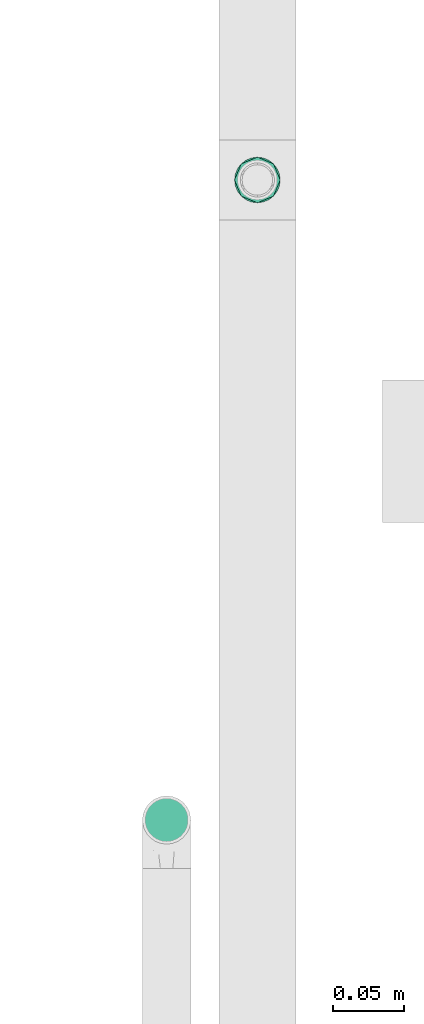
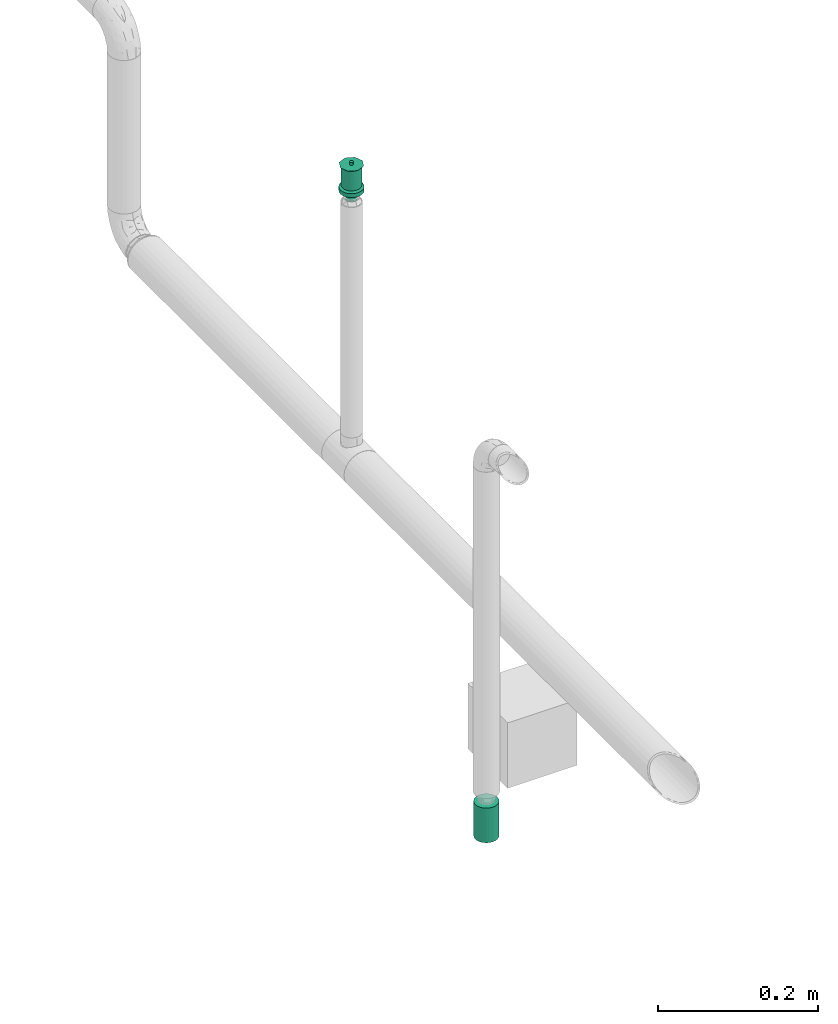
# One storey, part 58 of 95: 2 flow terminals.
"""IFC2X3 building model written with IfcOpenShell, lengths in millimetres."""

from ifc_helpers import new_model, entity, si_unit, converted_unit, derived_unit, direction, frame, origin_with_axes, place, context, subcontext, project, spatial, open_shell, surface_model, source, transform, mapped, type_object, element, save


model = new_model("IFC2X3")

# Units and contexts
model_context = context("Model", 3, precision=0.01, world=frame((0.0, 4.29681676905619e-09, 0.0)), true_north=direction((4.01073788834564e-13, 1.0)))
plan_context = context("Plan", 3, precision=0.01, world=frame((0.0, 4.29681676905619e-09, 0.0)), true_north=direction((4.01073788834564e-13, 1.0)))
body_context = subcontext(model_context, "Body", "Model", "MODEL_VIEW")
ifc_project = project(units=[converted_unit("PLANEANGLEUNIT", "DEGREE", entity("IfcPositiveLengthMeasure", 0.0174532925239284), si_unit("PLANEANGLEUNIT", "RADIAN"), dimensions=[0, 0, 0, 0, 0, 0, 0]), si_unit("AREAUNIT", "SQUARE_METRE"), si_unit("LENGTHUNIT", "METRE", prefix="MILLI"), si_unit("MASSUNIT", "GRAM", prefix="KILO"), si_unit("POWERUNIT", "WATT"), si_unit("PRESSUREUNIT", "PASCAL"), si_unit("FORCEUNIT", "NEWTON", prefix="KILO"), si_unit("ELECTRICVOLTAGEUNIT", "VOLT"), si_unit("ELECTRICCURRENTUNIT", "AMPERE"), si_unit("THERMODYNAMICTEMPERATUREUNIT", "DEGREE_CELSIUS"), si_unit("TIMEUNIT", "SECOND"), si_unit("VOLUMEUNIT", "CUBIC_METRE"), derived_unit("LINEARVELOCITYUNIT", [(si_unit("LENGTHUNIT", "METRE"), 1), (si_unit("TIMEUNIT", "SECOND"), -1)]), derived_unit("VOLUMETRICFLOWRATEUNIT", [(si_unit("VOLUMEUNIT", "CUBIC_METRE"), 1), (si_unit("TIMEUNIT", "SECOND"), -1)]), derived_unit("THERMALTRANSMITTANCEUNIT", [(si_unit("POWERUNIT", "WATT"), 1), (si_unit("THERMODYNAMICTEMPERATUREUNIT", "KELVIN"), -1), (si_unit("AREAUNIT", "SQUARE_METRE"), -1)]), derived_unit("SOUNDPRESSUREUNIT", [(si_unit("PRESSUREUNIT", "PASCAL"), 1)])], contexts=[model_context, plan_context])

# Site, building, storey
site_placement = place(None, frame((0.0, -4.29681676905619e-09, 0.0), z_axis=(0.0, 0.0, 1.0), x_axis=(1.0, 0.0, 0.0)))
site = spatial("IfcSite", under=ifc_project, at=site_placement, CompositionType="ELEMENT")
building_placement = place(site_placement, frame((0.0, 4.29681676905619e-09, 0.0), z_axis=(0.0, 0.0, 1.0), x_axis=(1.0, 0.0, 0.0)))
building = spatial("IfcBuilding", under=site, at=building_placement, Name="mc-building", CompositionType="ELEMENT")
storey_placement = place(building_placement, frame((0.0, 0.0, 210900.0), z_axis=(0.0, 0.0, 1.0), x_axis=(1.0, 0.0, 0.0)))
storey = spatial("IfcBuildingStorey", under=building, at=storey_placement, Name="Nivå F", CompositionType="ELEMENT", Elevation=210900.0)

# Flow terminals
fire_suppression_terminal_type_1 = type_object("IfcFireSuppressionTerminalType", Name="68DGR-STD-STÅENDE", PredefinedType="NOTDEFINED")
shared_shape_1 = source(origin_with_axes(), body_context, "Body", "SurfaceModel", [
    surface_model("IfcShellBasedSurfaceModel", [(3.36465, -12.55704, 51.0), (6.5, -11.25833, 51.0), (9.19239, -9.19239, 51.0), (12.55704, -3.36465, 51.0), (-11.25833, -6.5, 51.0), (11.25833, -6.5, 51.0), (-13.0, 0.0, 51.0), (0.0, -13.0, 51.0), (-6.5, -11.25833, 51.0), (-3.36465, -12.55704, 51.0), (-9.19239, -9.19239, 51.0), (-12.55704, -3.36465, 51.0), (13.0, 0.0, 51.0), (12.55704, 3.36465, 51.0), (11.25833, 6.5, 51.0), (9.19239, 9.19239, 51.0), (6.5, 11.25833, 51.0), (3.36465, 12.55704, 51.0), (0.0, 13.0, 51.0), (-3.36465, 12.55704, 51.0), (-12.55704, 3.36465, 51.0), (-9.19239, 9.19239, 51.0), (-11.25833, 6.5, 51.0), (-6.5, 11.25833, 51.0), (0.0, 13.0, 21.14766), (3.36465, 12.55704, 21.14766), (6.5, 11.25833, 21.14766), (-3.36465, 12.55704, 21.14766), (9.19239, 9.19239, 21.14766), (11.25833, 6.5, 21.14766), (12.55704, 3.36465, 21.14766), (-12.55704, 3.36465, 21.14766), (-11.25833, -6.5, 21.14766), (-9.19239, 9.19239, 21.14766), (-6.5, 11.25833, 21.14766), (-11.25833, 6.5, 21.14766), (-13.0, 0.0, 21.14766), (12.55704, -3.36465, 21.14766), (9.19239, -9.19239, 21.14766), (11.25833, -6.5, 21.14766), (6.5, -11.25833, 21.14766), (3.36465, -12.55704, 21.14766), (-6.5, -11.25833, 21.14766), (-9.19239, -9.19239, 21.14766), (-12.55704, -3.36465, 21.14766), (0.0, -13.0, 21.14766), (-3.36465, -12.55704, 21.14766), (13.0, 0.0, 21.14766), (7.24444, -1.94114, 0.1), (1.94114, -7.24444, 0.1), (3.75, -6.49519, 0.1), (5.3033, -5.3033, 0.1), (-5.3033, -5.3033, 0.1), (6.49519, -3.75, 0.1), (5.3033, 5.3033, 0.1), (0.0, -7.5, 0.1), (-3.75, -6.49519, 0.1), (-1.94114, -7.24444, 0.1), (-7.24444, -1.94114, 0.1), (-6.49519, -3.75, 0.1), (-7.24444, 1.94114, 0.1), (7.5, 0.0, 0.1), (6.49519, 3.75, 0.1), (-6.49519, 3.75, 0.1), (1.94114, 7.24444, 0.1), (0.0, 7.5, 0.1), (3.75, 6.49519, 0.1), (-7.5, 0.0, 0.1), (-5.3033, 5.3033, 0.1), (-1.94114, 7.24444, 0.1), (-3.75, 6.49519, 0.1), (7.24444, 1.94114, 0.1), (1.94114, 7.24444, -0.1), (-6.49519, 3.75, -0.1), (0.0, 7.5, -0.1), (5.3033, 5.3033, -0.1), (3.75, 6.49519, -0.1), (6.49519, 3.75, -0.1), (7.24444, 1.94114, -0.1), (-1.94114, 7.24444, -0.1), (-5.3033, 5.3033, -0.1), (-3.75, 6.49519, -0.1), (-7.24444, 1.94114, -0.1), (-7.24444, -1.94114, -0.1), (-7.5, 0.0, -0.1), (7.5, 0.0, -0.1), (7.24444, -1.94114, -0.1), (-5.3033, -5.3033, -0.1), (1.94114, -7.24444, -0.1), (6.49519, -3.75, -0.1), (5.3033, -5.3033, -0.1), (3.75, -6.49519, -0.1), (-6.49519, -3.75, -0.1), (-3.75, -6.49519, -0.1), (0.0, -7.5, -0.1), (-1.94114, -7.24444, -0.1), (0.0, -2.5, 51.0), (-2.5, 0.0, 51.0), (0.0, 2.5, 51.0), (2.5, 0.0, 51.0), (0.0, -16.0, 53.0), (11.31371, -11.31371, 53.0), (-11.31371, -11.31371, 53.0), (-16.0, 0.0, 53.0), (16.0, 0.0, 53.0), (11.31371, 11.31371, 53.0), (0.0, 16.0, 53.0), (-11.31371, 11.31371, 53.0), (1.25, -2.16506, 57.0), (0.0, -2.5, 57.0), (0.64705, -2.41481, 57.0), (2.41481, -0.64705, 57.0), (1.76777, -1.76777, 57.0), (-2.41481, -0.64705, 57.0), (-2.5, 0.0, 57.0), (2.16506, -1.25, 57.0), (-1.25, -2.16506, 57.0), (-0.64705, -2.41481, 57.0), (-1.76777, -1.76777, 57.0), (-2.16506, -1.25, 57.0), (2.5, 0.0, 57.0), (2.41481, 0.64705, 57.0), (2.16506, 1.25, 57.0), (1.76777, 1.76777, 57.0), (0.64705, 2.41481, 57.0), (1.25, 2.16506, 57.0), (-1.76777, 1.76777, 57.0), (0.0, 2.5, 57.0), (-2.16506, 1.25, 57.0), (-2.41481, 0.64705, 57.0), (-0.64705, 2.41481, 57.0), (-1.25, 2.16506, 57.0), (1.25, 2.16506, 51.0), (1.76777, 1.76777, 51.0), (1.15, 1.99186, 51.0), (0.59528, 2.22163, 51.0), (0.64705, 2.41481, 51.0), (0.0, 2.3, 51.0), (1.62635, 1.62635, 51.0), (2.41481, 0.64705, 51.0), (2.3, 0.0, 51.0), (2.22163, 0.59528, 51.0), (2.16506, 1.25, 51.0), (1.99186, 1.15, 51.0), (-0.59528, 2.22163, 51.0), (-0.64705, 2.41481, 51.0), (-1.15, 1.99186, 51.0), (-1.76777, 1.76777, 51.0), (-1.25, 2.16506, 51.0), (-1.62635, 1.62635, 51.0), (-1.99186, 1.15, 51.0), (-2.16506, 1.25, 51.0), (-2.22163, 0.59528, 51.0), (-2.41481, 0.64705, 51.0), (-2.3, 0.0, 51.0), (2.41481, -0.64705, 51.0), (2.22163, -0.59528, 51.0), (1.99186, -1.15, 51.0), (2.16506, -1.25, 51.0), (1.62635, -1.62635, 51.0), (1.76777, -1.76777, 51.0), (1.25, -2.16506, 51.0), (1.15, -1.99186, 51.0), (0.59528, -2.22163, 51.0), (0.64705, -2.41481, 51.0), (0.0, -2.3, 51.0), (-2.16506, -1.25, 51.0), (-1.99186, -1.15, 51.0), (-1.76777, -1.76777, 51.0), (-1.62635, -1.62635, 51.0), (-2.41481, -0.64705, 51.0), (-2.22163, -0.59528, 51.0), (-0.59528, -2.22163, 51.0), (-0.64705, -2.41481, 51.0), (-1.15, -1.99186, 51.0), (-1.25, -2.16506, 51.0), (1.62635, -1.62635, 56.8), (1.15, -1.99186, 56.8), (0.59528, -2.22163, 56.8), (0.0, -2.3, 56.8), (2.22163, 0.59528, 56.8), (1.99186, -1.15, 56.8), (2.22163, -0.59528, 56.8), (-0.59528, -2.22163, 56.8), (-1.15, -1.99186, 56.8), (-1.62635, -1.62635, 56.8), (-1.99186, -1.15, 56.8), (-2.22163, -0.59528, 56.8), (-1.99186, 1.15, 56.8), (2.3, 0.0, 56.8), (1.62635, 1.62635, 56.8), (1.99186, 1.15, 56.8), (1.15, 1.99186, 56.8), (0.0, 2.3, 56.8), (0.59528, 2.22163, 56.8), (-2.22163, 0.59528, 56.8), (-2.3, 0.0, 56.8), (-1.15, 1.99186, 56.8), (-0.59528, 2.22163, 56.8), (-1.62635, 1.62635, 56.8), (4.1411, -15.45481, 19.0), (8.0, -13.85641, 19.0), (11.31371, -11.31371, 19.0), (-8.0, -13.85641, 19.0), (15.45481, -4.1411, 19.0), (16.0, 0.0, 19.0), (13.85641, -8.0, 19.0), (0.0, -16.0, 19.0), (-4.1411, -15.45481, 19.0), (-13.85641, -8.0, 19.0), (-11.31371, -11.31371, 19.0), (-15.45481, -4.1411, 19.0), (15.45481, 4.1411, 19.0), (13.85641, 8.0, 19.0), (11.31371, 11.31371, 19.0), (-4.1411, 15.45481, 19.0), (8.0, 13.85641, 19.0), (4.1411, 15.45481, 19.0), (0.0, 16.0, 19.0), (-13.85641, 8.0, 19.0), (-15.45481, 4.1411, 19.0), (-16.0, 0.0, 19.0), (-11.31371, 11.31371, 19.0), (-8.0, 13.85641, 19.0), (0.0, 16.0, 13.0), (4.1411, 15.45481, 13.0), (8.0, 13.85641, 13.0), (-4.1411, 15.45481, 13.0), (11.31371, 11.31371, 13.0), (13.85641, 8.0, 13.0), (15.45481, 4.1411, 13.0), (-15.45481, -4.1411, 13.0), (-11.31371, 11.31371, 13.0), (-8.0, 13.85641, 13.0), (-13.85641, 8.0, 13.0), (-15.45481, 4.1411, 13.0), (-16.0, 0.0, 13.0), (4.1411, -15.45481, 13.0), (16.0, 0.0, 13.0), (15.45481, -4.1411, 13.0), (13.85641, -8.0, 13.0), (11.31371, -11.31371, 13.0), (8.0, -13.85641, 13.0), (-8.0, -13.85641, 13.0), (-13.85641, -8.0, 13.0), (-11.31371, -11.31371, 13.0), (0.0, -16.0, 13.0), (-4.1411, -15.45481, 13.0), (7.24444, -1.94114, 13.0), (1.94114, -7.24444, 13.0), (3.75, -6.49519, 13.0), (5.3033, -5.3033, 13.0), (-5.3033, -5.3033, 13.0), (6.49519, -3.75, 13.0), (5.3033, 5.3033, 13.0), (0.0, -7.5, 13.0), (-3.75, -6.49519, 13.0), (-1.94114, -7.24444, 13.0), (-7.24444, -1.94114, 13.0), (-6.49519, -3.75, 13.0), (-7.24444, 1.94114, 13.0), (7.5, 0.0, 13.0), (6.49519, 3.75, 13.0), (-6.49519, 3.75, 13.0), (1.94114, 7.24444, 13.0), (0.0, 7.5, 13.0), (3.75, 6.49519, 13.0), (-7.5, 0.0, 13.0), (-5.3033, 5.3033, 13.0), (-1.94114, 7.24444, 13.0), (-3.75, 6.49519, 13.0), (7.24444, 1.94114, 13.0), (3.75, 6.49519, 0.0), (5.3033, 5.3033, 0.0), (3.65, 6.32199, 0.0), (1.88938, 7.05126, 0.0), (0.0, 7.3, 0.0), (1.94114, 7.24444, 0.0), (0.0, 7.5, 0.0), (5.16188, 5.16188, 0.0), (7.24444, 1.94114, 0.0), (7.3, 0.0, 0.0), (7.05126, 1.88938, 0.0), (7.5, 0.0, 0.0), (6.49519, 3.75, 0.0), (6.32199, 3.65, 0.0), (-1.88938, 7.05126, 0.0), (-1.94114, 7.24444, 0.0), (-3.65, 6.32199, 0.0), (-5.3033, 5.3033, 0.0), (-3.75, 6.49519, 0.0), (-5.16188, 5.16188, 0.0), (-6.32199, 3.65, 0.0), (-6.49519, 3.75, 0.0), (-7.05126, 1.88938, 0.0), (-7.24444, 1.94114, 0.0), (-7.3, 0.0, 0.0), (-7.5, 0.0, 0.0), (7.24444, -1.94114, 0.0), (7.05126, -1.88938, 0.0), (6.32199, -3.65, 0.0), (6.49519, -3.75, 0.0), (5.16188, -5.16188, 0.0), (5.3033, -5.3033, 0.0), (3.75, -6.49519, 0.0), (3.65, -6.32199, 0.0), (1.88938, -7.05126, 0.0), (1.94114, -7.24444, 0.0), (0.0, -7.3, 0.0), (0.0, -7.5, 0.0), (-6.49519, -3.75, 0.0), (-6.32199, -3.65, 0.0), (-5.3033, -5.3033, 0.0), (-5.16188, -5.16188, 0.0), (-7.24444, -1.94114, 0.0), (-7.05126, -1.88938, 0.0), (-1.88938, -7.05126, 0.0), (-1.94114, -7.24444, 0.0), (-3.65, -6.32199, 0.0), (-3.75, -6.49519, 0.0), (1.88938, -7.05126, 12.8), (0.0, -7.3, 12.8), (3.65, -6.32199, 12.8), (5.16188, -5.16188, 12.8), (6.32199, -3.65, 12.8), (7.05126, 1.88938, 12.8), (7.05126, -1.88938, 12.8), (-5.16188, -5.16188, 12.8), (-1.88938, -7.05126, 12.8), (-3.65, -6.32199, 12.8), (-6.32199, -3.65, 12.8), (-7.05126, -1.88938, 12.8), (0.0, 7.3, 12.8), (7.3, 0.0, 12.8), (6.32199, 3.65, 12.8), (5.16188, 5.16188, 12.8), (3.65, 6.32199, 12.8), (1.88938, 7.05126, 12.8), (-6.32199, 3.65, 12.8), (-7.05126, 1.88938, 12.8), (-7.3, 0.0, 12.8), (-3.65, 6.32199, 12.8), (-1.88938, 7.05126, 12.8), (-5.16188, 5.16188, 12.8)], [open_shell([[[0, 1, 2]], [[0, 2, 3]], [[0, 3, 4]], [[3, 2, 5]], [[6, 4, 3]], [[7, 8, 9]], [[7, 0, 8]], [[8, 4, 10]], [[0, 4, 8]], [[4, 6, 11]], [[6, 3, 12]], [[13, 14, 15]], [[6, 13, 15]], [[16, 17, 18]], [[15, 16, 19]], [[18, 19, 16]], [[20, 21, 22]], [[20, 6, 15]], [[21, 19, 23]], [[19, 21, 20]], [[15, 19, 20]], [[13, 6, 12]], [[24, 25, 26]], [[27, 24, 26]], [[28, 29, 30]], [[26, 28, 31]], [[28, 32, 31]], [[27, 33, 34]], [[33, 27, 31]], [[33, 31, 35]], [[27, 26, 31]], [[31, 32, 36]], [[32, 28, 30]], [[32, 30, 37]], [[38, 37, 39]], [[38, 40, 41]], [[38, 41, 37]], [[32, 37, 41]], [[32, 42, 43]], [[44, 36, 32]], [[42, 45, 46]], [[42, 32, 41]], [[45, 42, 41]], [[30, 47, 37]], [[4, 32, 43]], [[8, 42, 46]], [[43, 42, 10]], [[9, 46, 45]], [[36, 11, 6]], [[11, 36, 44]], [[11, 44, 4]], [[44, 32, 4]], [[43, 10, 4]], [[8, 10, 42]], [[46, 9, 8]], [[45, 7, 9]], [[0, 41, 40]], [[38, 1, 40]], [[5, 39, 37]], [[38, 39, 2]], [[3, 37, 47]], [[41, 0, 7]], [[40, 1, 0]], [[38, 2, 1]], [[39, 5, 2]], [[3, 5, 37]], [[47, 12, 3]], [[41, 7, 45]], [[30, 13, 47]], [[29, 14, 30]], [[25, 24, 17]], [[15, 29, 28]], [[30, 14, 13]], [[13, 12, 47]], [[16, 26, 17]], [[16, 15, 28]], [[26, 25, 17]], [[15, 14, 29]], [[28, 26, 16]], [[24, 18, 17]], [[19, 27, 34]], [[33, 23, 34]], [[22, 35, 31]], [[33, 35, 21]], [[20, 31, 36]], [[27, 19, 18]], [[34, 23, 19]], [[33, 21, 23]], [[35, 22, 21]], [[20, 22, 31]], [[36, 6, 20]], [[27, 18, 24]], [[48, 49, 50]], [[48, 50, 51]], [[49, 48, 52]], [[48, 51, 53]], [[54, 52, 48]], [[55, 56, 57]], [[56, 55, 52]], [[52, 58, 59]], [[52, 55, 49]], [[52, 60, 58]], [[54, 48, 61]], [[62, 54, 61]], [[54, 63, 52]], [[64, 65, 54]], [[64, 54, 66]], [[63, 54, 65]], [[63, 60, 52]], [[67, 58, 60]], [[68, 69, 70]], [[69, 68, 63]], [[69, 63, 65]], [[71, 62, 61]], [[72, 73, 74]], [[75, 72, 76]], [[75, 77, 78]], [[72, 75, 73]], [[78, 73, 75]], [[79, 80, 81]], [[80, 79, 73]], [[74, 73, 79]], [[78, 82, 73]], [[82, 83, 84]], [[82, 78, 85]], [[86, 87, 85]], [[88, 86, 89]], [[90, 91, 88]], [[90, 88, 89]], [[87, 86, 88]], [[83, 87, 92]], [[83, 85, 87]], [[93, 94, 95]], [[94, 93, 87]], [[88, 94, 87]], [[85, 83, 82]], [[83, 58, 84]], [[92, 59, 83]], [[56, 87, 93]], [[92, 87, 52]], [[57, 93, 95]], [[83, 59, 58]], [[58, 67, 84]], [[57, 56, 93]], [[52, 87, 56]], [[52, 59, 92]], [[55, 57, 95]], [[95, 94, 55]], [[88, 49, 94]], [[91, 50, 88]], [[53, 90, 89]], [[91, 90, 51]], [[48, 89, 86]], [[91, 51, 50]], [[50, 49, 88]], [[61, 48, 86]], [[53, 89, 48]], [[53, 51, 90]], [[85, 61, 86]], [[94, 49, 55]], [[78, 71, 85]], [[77, 62, 78]], [[66, 75, 76]], [[77, 75, 54]], [[64, 76, 72]], [[78, 62, 71]], [[71, 61, 85]], [[64, 66, 76]], [[54, 75, 66]], [[54, 62, 77]], [[65, 64, 72]], [[72, 74, 65]], [[79, 69, 74]], [[81, 70, 79]], [[63, 80, 73]], [[81, 80, 68]], [[60, 73, 82]], [[81, 68, 70]], [[70, 69, 79]], [[67, 60, 82]], [[63, 73, 60]], [[63, 68, 80]], [[84, 67, 82]], [[74, 69, 65]], [[96, 97, 98]], [[98, 99, 96]], [[100, 101, 102]], [[103, 102, 101]], [[101, 104, 103]], [[104, 105, 106]], [[107, 103, 106]], [[106, 103, 104]], [[99, 98, 105]], [[105, 104, 99]], [[98, 106, 105]], [[98, 107, 106]], [[107, 98, 97]], [[103, 107, 97]], [[97, 96, 102]], [[102, 103, 97]], [[96, 100, 102]], [[96, 101, 100]], [[101, 96, 99]], [[104, 101, 99]], [[108, 109, 110]], [[111, 108, 112]], [[113, 108, 114]], [[111, 112, 115]], [[108, 111, 114]], [[109, 116, 117]], [[116, 109, 118]], [[118, 113, 119]], [[118, 109, 108]], [[108, 113, 118]], [[111, 120, 114]], [[121, 122, 123]], [[114, 121, 123]], [[114, 123, 124]], [[124, 123, 125]], [[126, 124, 127]], [[124, 128, 129]], [[129, 114, 124]], [[126, 130, 131]], [[128, 124, 126]], [[130, 126, 127]], [[121, 114, 120]], [[132, 133, 134]], [[132, 134, 135]], [[136, 135, 137]], [[135, 136, 132]], [[136, 137, 98]], [[134, 133, 138]], [[139, 140, 141]], [[140, 139, 99]], [[139, 141, 142]], [[138, 142, 143]], [[142, 138, 133]], [[143, 142, 141]], [[98, 144, 145]], [[98, 137, 144]], [[145, 144, 146]], [[147, 148, 149]], [[146, 148, 145]], [[149, 148, 146]], [[150, 151, 147]], [[151, 150, 152]], [[150, 147, 149]], [[153, 152, 154]], [[152, 153, 151]], [[153, 154, 97]], [[99, 155, 156]], [[156, 155, 157]], [[157, 158, 159]], [[158, 157, 155]], [[159, 158, 160]], [[160, 161, 162]], [[162, 161, 163]], [[163, 164, 165]], [[164, 163, 161]], [[165, 164, 96]], [[162, 159, 160]], [[166, 167, 168]], [[168, 167, 169]], [[167, 166, 170]], [[97, 171, 170]], [[170, 171, 167]], [[97, 154, 171]], [[172, 96, 173]], [[172, 173, 174]], [[169, 175, 168]], [[175, 169, 174]], [[175, 174, 173]], [[165, 96, 172]], [[156, 140, 99]], [[170, 113, 97]], [[166, 119, 170]], [[116, 168, 175]], [[166, 168, 118]], [[117, 175, 173]], [[170, 119, 113]], [[113, 114, 97]], [[117, 116, 175]], [[118, 168, 116]], [[118, 119, 166]], [[109, 117, 173]], [[173, 96, 109]], [[164, 110, 96]], [[161, 108, 164]], [[115, 160, 158]], [[161, 160, 112]], [[111, 158, 155]], [[161, 112, 108]], [[108, 110, 164]], [[120, 111, 155]], [[115, 158, 111]], [[115, 112, 160]], [[99, 120, 155]], [[96, 110, 109]], [[139, 121, 99]], [[142, 122, 139]], [[125, 133, 132]], [[142, 133, 123]], [[124, 132, 136]], [[139, 122, 121]], [[121, 120, 99]], [[124, 125, 132]], [[123, 133, 125]], [[123, 122, 142]], [[127, 124, 136]], [[136, 98, 127]], [[145, 130, 98]], [[148, 131, 145]], [[128, 147, 151]], [[148, 147, 126]], [[129, 151, 153]], [[148, 126, 131]], [[131, 130, 145]], [[114, 129, 153]], [[128, 151, 129]], [[128, 126, 147]], [[97, 114, 153]], [[98, 130, 127]], [[176, 177, 178]], [[176, 178, 179]], [[180, 176, 179]], [[181, 176, 182]], [[180, 182, 176]], [[183, 184, 179]], [[185, 179, 184]], [[186, 187, 185]], [[185, 187, 188]], [[179, 185, 188]], [[189, 182, 180]], [[190, 191, 180]], [[192, 190, 180]], [[193, 194, 192]], [[180, 193, 192]], [[188, 193, 180]], [[195, 188, 196]], [[196, 188, 187]], [[197, 198, 199]], [[188, 199, 198]], [[188, 198, 193]], [[180, 179, 188]], [[154, 187, 171]], [[171, 186, 167]], [[174, 169, 184]], [[185, 169, 167]], [[172, 174, 183]], [[187, 186, 171]], [[154, 196, 187]], [[174, 184, 183]], [[184, 169, 185]], [[167, 186, 185]], [[172, 183, 179]], [[179, 165, 172]], [[165, 178, 163]], [[163, 177, 162]], [[157, 159, 181]], [[176, 159, 162]], [[156, 157, 182]], [[177, 176, 162]], [[163, 178, 177]], [[156, 182, 189]], [[182, 157, 181]], [[159, 176, 181]], [[156, 189, 140]], [[179, 178, 165]], [[140, 180, 141]], [[141, 191, 143]], [[134, 138, 192]], [[190, 138, 143]], [[135, 134, 194]], [[180, 191, 141]], [[140, 189, 180]], [[134, 192, 194]], [[192, 138, 190]], [[143, 191, 190]], [[135, 194, 193]], [[193, 137, 135]], [[137, 198, 144]], [[144, 197, 146]], [[150, 149, 188]], [[199, 149, 146]], [[152, 150, 195]], [[197, 199, 146]], [[144, 198, 197]], [[152, 195, 196]], [[195, 150, 188]], [[149, 199, 188]], [[152, 196, 154]], [[193, 198, 137]], [[200, 201, 202]], [[203, 200, 202]], [[204, 205, 202]], [[204, 202, 206]], [[203, 202, 205]], [[207, 203, 208]], [[207, 200, 203]], [[203, 209, 210]], [[209, 203, 211]], [[205, 211, 203]], [[205, 212, 211]], [[212, 213, 214]], [[215, 212, 214]], [[216, 217, 218]], [[214, 216, 215]], [[218, 215, 216]], [[211, 219, 220]], [[221, 211, 220]], [[222, 215, 223]], [[215, 222, 219]], [[219, 211, 215]], [[211, 212, 215]], [[224, 225, 226]], [[227, 224, 226]], [[228, 229, 230]], [[227, 226, 228]], [[227, 228, 231]], [[227, 232, 233]], [[232, 227, 234]], [[234, 231, 235]], [[231, 234, 227]], [[235, 231, 236]], [[228, 230, 231]], [[237, 238, 239]], [[237, 239, 240]], [[241, 242, 237]], [[241, 237, 240]], [[238, 237, 243]], [[244, 243, 245]], [[243, 244, 231]], [[243, 246, 247]], [[243, 231, 238]], [[237, 246, 243]], [[238, 231, 230]], [[231, 211, 236]], [[244, 209, 231]], [[203, 245, 243]], [[244, 245, 210]], [[208, 243, 247]], [[231, 209, 211]], [[211, 221, 236]], [[208, 203, 243]], [[210, 245, 203]], [[210, 209, 244]], [[207, 208, 247]], [[247, 246, 207]], [[237, 200, 246]], [[242, 201, 237]], [[206, 241, 240]], [[242, 241, 202]], [[204, 240, 239]], [[242, 202, 201]], [[201, 200, 237]], [[205, 204, 239]], [[206, 240, 204]], [[206, 202, 241]], [[238, 205, 239]], [[246, 200, 207]], [[230, 212, 238]], [[229, 213, 230]], [[216, 228, 226]], [[229, 228, 214]], [[217, 226, 225]], [[230, 213, 212]], [[212, 205, 238]], [[217, 216, 226]], [[214, 228, 216]], [[214, 213, 229]], [[218, 217, 225]], [[225, 224, 218]], [[227, 215, 224]], [[233, 223, 227]], [[219, 232, 234]], [[233, 232, 222]], [[220, 234, 235]], [[233, 222, 223]], [[223, 215, 227]], [[221, 220, 235]], [[219, 234, 220]], [[219, 222, 232]], [[236, 221, 235]], [[224, 215, 218]], [[248, 249, 250]], [[248, 250, 251]], [[249, 248, 252]], [[248, 251, 253]], [[254, 252, 248]], [[255, 256, 257]], [[256, 255, 252]], [[252, 258, 259]], [[252, 255, 249]], [[252, 260, 258]], [[254, 248, 261]], [[262, 254, 261]], [[254, 263, 252]], [[264, 265, 254]], [[264, 254, 266]], [[263, 254, 265]], [[263, 260, 252]], [[267, 258, 260]], [[268, 269, 270]], [[269, 268, 263]], [[269, 263, 265]], [[271, 262, 261]], [[272, 273, 274]], [[272, 274, 275]], [[276, 277, 275]], [[277, 276, 278]], [[275, 277, 272]], [[274, 273, 279]], [[280, 281, 282]], [[281, 280, 283]], [[280, 282, 284]], [[279, 284, 285]], [[284, 279, 273]], [[285, 284, 282]], [[278, 286, 287]], [[287, 286, 288]], [[289, 290, 291]], [[288, 290, 287]], [[288, 291, 290]], [[278, 276, 286]], [[292, 293, 289]], [[293, 292, 294]], [[292, 289, 291]], [[295, 294, 296]], [[294, 295, 293]], [[295, 296, 297]], [[283, 298, 299]], [[299, 298, 300]], [[300, 301, 302]], [[301, 300, 298]], [[302, 301, 303]], [[303, 304, 305]], [[305, 304, 306]], [[306, 307, 308]], [[307, 306, 304]], [[308, 307, 309]], [[305, 302, 303]], [[310, 311, 312]], [[312, 311, 313]], [[311, 310, 314]], [[297, 315, 314]], [[314, 315, 311]], [[297, 296, 315]], [[316, 309, 317]], [[316, 317, 318]], [[313, 319, 312]], [[313, 318, 319]], [[319, 318, 317]], [[308, 309, 316]], [[299, 281, 283]], [[314, 258, 297]], [[310, 259, 314]], [[256, 312, 319]], [[310, 312, 252]], [[257, 319, 317]], [[314, 259, 258]], [[258, 267, 297]], [[257, 256, 319]], [[252, 312, 256]], [[252, 259, 310]], [[255, 257, 317]], [[317, 309, 255]], [[307, 249, 309]], [[304, 250, 307]], [[253, 303, 301]], [[304, 303, 251]], [[248, 301, 298]], [[304, 251, 250]], [[250, 249, 307]], [[261, 248, 298]], [[253, 301, 248]], [[253, 251, 303]], [[283, 261, 298]], [[309, 249, 255]], [[280, 271, 283]], [[284, 262, 280]], [[266, 273, 272]], [[284, 273, 254]], [[264, 272, 277]], [[280, 262, 271]], [[271, 261, 283]], [[264, 266, 272]], [[254, 273, 266]], [[254, 262, 284]], [[265, 264, 277]], [[277, 278, 265]], [[287, 269, 278]], [[290, 270, 287]], [[263, 289, 293]], [[290, 289, 268]], [[260, 293, 295]], [[290, 268, 270]], [[270, 269, 287]], [[267, 260, 295]], [[263, 293, 260]], [[263, 268, 289]], [[297, 267, 295]], [[278, 269, 265]], [[320, 321, 322]], [[323, 322, 324]], [[325, 326, 322]], [[324, 322, 326]], [[322, 327, 325]], [[328, 329, 321]], [[327, 321, 329]], [[330, 331, 327]], [[322, 321, 327]], [[331, 332, 327]], [[326, 325, 333]], [[334, 325, 332]], [[335, 334, 336]], [[332, 337, 336]], [[334, 332, 336]], [[331, 338, 332]], [[339, 338, 340]], [[340, 338, 331]], [[341, 342, 343]], [[332, 338, 343]], [[332, 343, 342]], [[332, 325, 327]], [[296, 331, 315]], [[315, 330, 311]], [[318, 313, 329]], [[327, 313, 311]], [[316, 318, 328]], [[331, 330, 315]], [[296, 340, 331]], [[318, 329, 328]], [[329, 313, 327]], [[311, 330, 327]], [[316, 328, 321]], [[321, 308, 316]], [[308, 320, 306]], [[306, 322, 305]], [[300, 302, 324]], [[323, 302, 305]], [[299, 300, 326]], [[322, 323, 305]], [[306, 320, 322]], [[299, 326, 333]], [[326, 300, 324]], [[302, 323, 324]], [[299, 333, 281]], [[321, 320, 308]], [[281, 325, 282]], [[282, 334, 285]], [[274, 279, 336]], [[335, 279, 285]], [[275, 274, 337]], [[325, 334, 282]], [[281, 333, 325]], [[274, 336, 337]], [[336, 279, 335]], [[285, 334, 335]], [[275, 337, 332]], [[332, 276, 275]], [[276, 342, 286]], [[286, 341, 288]], [[292, 291, 338]], [[343, 291, 288]], [[294, 292, 339]], [[341, 343, 288]], [[286, 342, 341]], [[294, 339, 340]], [[339, 292, 338]], [[291, 343, 338]], [[294, 340, 296]], [[332, 342, 276]]])]),
])
flow_terminal_1_placement = place(storey_placement, frame((535962.24677, 447656.17841, 4386.99611000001), z_axis=(0.0, 0.0, 1.0), x_axis=(1.0, 0.0, 0.0)))
element("IfcFlowTerminal", 1, at=flow_terminal_1_placement, inside=storey, type_object=fire_suppression_terminal_type_1, Name="68DGR-STD-STÅENDE", context=body_context, shape_type="MappedRepresentation", body=[
    mapped(shared_shape_1, transform((0.0, 0.0, 0.0), scale=1.0)),
])
fire_suppression_terminal_type_2 = type_object("IfcFireSuppressionTerminalType", Name="SP-15-K80-68DGR-STD", PredefinedType="NOTDEFINED")
shared_shape_2 = source(origin_with_axes(), body_context, "Body", "SurfaceModel", [
    surface_model("IfcShellBasedSurfaceModel", [(15.45481, -4.1411, 53.0), (13.85641, -8.0, 53.0), (15.45481, -4.1411, 0.0), (16.0, 0.0, 0.0), (16.0, 0.0, 53.0), (15.45481, 4.1411, 0.0), (13.85641, 8.0, 53.0), (15.45481, 4.1411, 53.0), (11.31371, 11.31371, 53.0), (8.0, 13.85641, 53.0), (4.1411, 15.45481, 53.0), (-8.0, 13.85641, 53.0), (-4.1411, 15.45481, 53.0), (0.0, 16.0, 53.0), (-11.31371, 11.31371, 53.0), (-13.85641, 8.0, 53.0), (-15.45481, 4.1411, 53.0), (11.31371, -11.31371, 53.0), (-16.0, 0.0, 53.0), (0.0, -16.0, 53.0), (4.1411, -15.45481, 53.0), (8.0, -13.85641, 53.0), (-13.85641, -8.0, 53.0), (-11.31371, -11.31371, 53.0), (-15.45481, -4.1411, 53.0), (-8.0, -13.85641, 53.0), (-4.1411, -15.45481, 53.0), (8.0, -13.85641, 0.0), (4.1411, -15.45481, 0.0), (0.0, -16.0, 0.0), (-4.1411, -15.45481, 0.0), (13.85641, -8.0, 0.0), (11.31371, -11.31371, 0.0), (-16.0, 0.0, 0.0), (-8.0, -13.85641, 0.0), (-11.31371, -11.31371, 0.0), (-13.85641, -8.0, 0.0), (-15.45481, -4.1411, 0.0), (4.1411, 15.45481, 0.0), (13.85641, 8.0, 0.0), (8.0, 13.85641, 0.0), (11.31371, 11.31371, 0.0), (-15.45481, 4.1411, 0.0), (-11.31371, 11.31371, 0.0), (-8.0, 13.85641, 0.0), (-13.85641, 8.0, 0.0), (-4.1411, 15.45481, 0.0), (0.0, 16.0, 0.0)], [open_shell([[[0, 1, 2]], [[3, 4, 0]], [[5, 6, 7]], [[7, 4, 3]], [[8, 9, 10]], [[8, 10, 11]], [[8, 4, 7]], [[6, 8, 7]], [[4, 8, 11]], [[12, 11, 13]], [[11, 10, 13]], [[14, 15, 11]], [[16, 11, 15]], [[11, 16, 4]], [[16, 0, 4]], [[17, 1, 0]], [[18, 17, 16]], [[19, 20, 21]], [[18, 21, 17]], [[21, 18, 19]], [[22, 23, 24]], [[18, 24, 23]], [[25, 26, 23]], [[18, 23, 26]], [[26, 19, 18]], [[0, 16, 17]], [[27, 28, 29]], [[27, 29, 30]], [[2, 31, 32]], [[32, 27, 33]], [[2, 32, 33]], [[34, 35, 30]], [[36, 30, 35]], [[36, 37, 30]], [[37, 27, 30]], [[37, 33, 27]], [[33, 5, 2]], [[38, 5, 33]], [[39, 5, 38]], [[38, 40, 41]], [[39, 38, 41]], [[33, 42, 38]], [[43, 44, 45]], [[42, 45, 44]], [[46, 47, 44]], [[38, 42, 44]], [[44, 47, 38]], [[5, 3, 2]], [[45, 42, 16]], [[45, 15, 43]], [[46, 44, 11]], [[14, 44, 43]], [[47, 46, 12]], [[33, 18, 42]], [[18, 16, 42]], [[16, 15, 45]], [[15, 14, 43]], [[44, 14, 11]], [[11, 12, 46]], [[12, 13, 47]], [[40, 38, 10]], [[40, 9, 41]], [[5, 39, 6]], [[8, 39, 41]], [[3, 5, 7]], [[13, 10, 38]], [[10, 9, 40]], [[9, 8, 41]], [[8, 6, 39]], [[47, 13, 38]], [[2, 3, 0]], [[31, 2, 1]], [[28, 27, 21]], [[29, 28, 20]], [[1, 17, 32]], [[17, 27, 32]], [[21, 27, 17]], [[21, 20, 28]], [[31, 1, 32]], [[20, 19, 29]], [[34, 30, 26]], [[34, 25, 35]], [[37, 36, 22]], [[23, 36, 35]], [[33, 37, 24]], [[19, 26, 30]], [[26, 25, 34]], [[25, 23, 35]], [[23, 22, 36]], [[37, 22, 24]], [[24, 18, 33]], [[29, 19, 30]]])]),
])
flow_terminal_2_placement = place(storey_placement, frame((535898.68266, 447207.85, 3759.89999999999), z_axis=(0.0, 0.0, -1.0), x_axis=(1.0, 0.0, 0.0)))
element("IfcFlowTerminal", 2, at=flow_terminal_2_placement, inside=storey, type_object=fire_suppression_terminal_type_2, Name="SP-15-K80-68DGR-STD", context=body_context, shape_type="MappedRepresentation", body=[
    mapped(shared_shape_2, transform((0.0, 0.0, 0.0), scale=1.0)),
])

save(model, "model.ifc")
